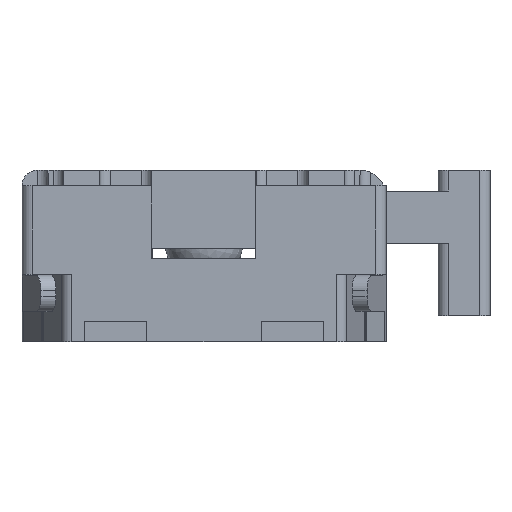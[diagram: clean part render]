
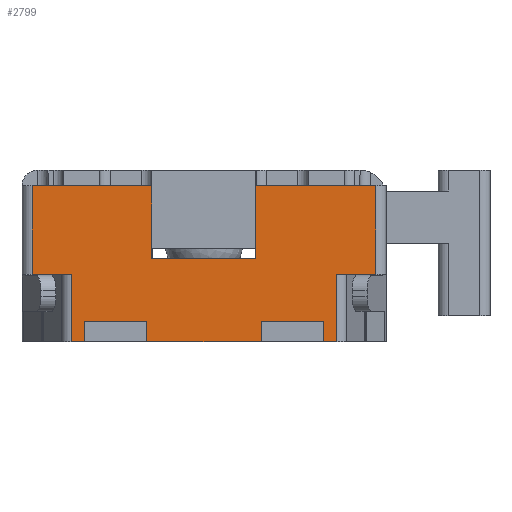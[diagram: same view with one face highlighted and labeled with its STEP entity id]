
A CAD part, left-side view. The second image highlights one B-rep face of the part: STEP entity #2799.
In plain terms, the highlighted planar face has unit normal (-1, 0, 0).
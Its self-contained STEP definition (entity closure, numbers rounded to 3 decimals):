
#366=CARTESIAN_POINT('',(-2.35,-1.276,0.0));
#367=VERTEX_POINT('',#366);
#376=CARTESIAN_POINT('',(-2.35,-1.276,0.65));
#377=VERTEX_POINT('',#376);
#385=CARTESIAN_POINT('',(-2.35,-1.276,0.65));
#386=DIRECTION('',(0.0,0.0,-1.0));
#387=VECTOR('',#386,0.65);
#388=LINE('',#385,#387);
#389=EDGE_CURVE('',#377,#367,#388,.T.);
#402=CARTESIAN_POINT('',(-2.35,-1.15,0.0));
#403=VERTEX_POINT('',#402);
#404=CARTESIAN_POINT('',(-2.35,-1.276,0.0));
#405=DIRECTION('',(0.0,1.0,0.0));
#406=VECTOR('',#405,0.126);
#407=LINE('',#404,#406);
#408=EDGE_CURVE('',#367,#403,#407,.T.);
#426=CARTESIAN_POINT('',(-2.35,-0.55,0.0));
#427=VERTEX_POINT('',#426);
#434=CARTESIAN_POINT('',(-2.35,0.55,0.0));
#435=VERTEX_POINT('',#434);
#436=CARTESIAN_POINT('',(-2.35,-0.55,0.0));
#437=DIRECTION('',(0.0,1.0,0.0));
#438=VECTOR('',#437,1.1);
#439=LINE('',#436,#438);
#440=EDGE_CURVE('',#427,#435,#439,.T.);
#458=CARTESIAN_POINT('',(-2.35,1.15,0.0));
#459=VERTEX_POINT('',#458);
#466=CARTESIAN_POINT('',(-2.35,1.276,0.0));
#467=VERTEX_POINT('',#466);
#468=CARTESIAN_POINT('',(-2.35,1.15,0.0));
#469=DIRECTION('',(0.0,1.0,0.0));
#470=VECTOR('',#469,0.126);
#471=LINE('',#468,#470);
#472=EDGE_CURVE('',#459,#467,#471,.T.);
#865=CARTESIAN_POINT('',(-2.35,-1.65,1.5));
#866=VERTEX_POINT('',#865);
#874=CARTESIAN_POINT('',(-2.35,-1.65,0.65));
#875=VERTEX_POINT('',#874);
#876=CARTESIAN_POINT('',(-2.35,-1.65,1.5));
#877=DIRECTION('',(0.0,0.0,-1.0));
#878=VECTOR('',#877,0.85);
#879=LINE('',#876,#878);
#880=EDGE_CURVE('',#866,#875,#879,.T.);
#947=CARTESIAN_POINT('',(-2.35,-0.5,1.5));
#948=VERTEX_POINT('',#947);
#955=CARTESIAN_POINT('',(-2.35,-1.65,1.5));
#956=DIRECTION('',(0.0,1.0,0.0));
#957=VECTOR('',#956,1.15);
#958=LINE('',#955,#957);
#959=EDGE_CURVE('',#866,#948,#958,.T.);
#1481=CARTESIAN_POINT('',(-2.35,1.276,0.65));
#1482=VERTEX_POINT('',#1481);
#1483=CARTESIAN_POINT('',(-2.35,1.276,0.0));
#1484=DIRECTION('',(0.0,0.0,1.0));
#1485=VECTOR('',#1484,0.65);
#1486=LINE('',#1483,#1485);
#1487=EDGE_CURVE('',#467,#1482,#1486,.T.);
#1536=CARTESIAN_POINT('',(-2.35,1.65,1.5));
#1537=VERTEX_POINT('',#1536);
#1555=CARTESIAN_POINT('',(-2.35,1.65,0.65));
#1556=VERTEX_POINT('',#1555);
#1564=CARTESIAN_POINT('',(-2.35,1.65,0.65));
#1565=DIRECTION('',(0.0,0.0,1.0));
#1566=VECTOR('',#1565,0.85);
#1567=LINE('',#1564,#1566);
#1568=EDGE_CURVE('',#1556,#1537,#1567,.T.);
#1610=CARTESIAN_POINT('',(-2.35,0.5,1.5));
#1611=VERTEX_POINT('',#1610);
#1612=CARTESIAN_POINT('',(-2.35,0.5,1.5));
#1613=DIRECTION('',(0.0,1.0,0.0));
#1614=VECTOR('',#1613,1.15);
#1615=LINE('',#1612,#1614);
#1616=EDGE_CURVE('',#1611,#1537,#1615,.T.);
#2321=CARTESIAN_POINT('',(-2.35,-1.65,0.65));
#2322=DIRECTION('',(0.0,1.0,0.0));
#2323=VECTOR('',#2322,0.374);
#2324=LINE('',#2321,#2323);
#2325=EDGE_CURVE('',#875,#377,#2324,.T.);
#2512=CARTESIAN_POINT('',(-2.35,-1.15,0.2));
#2513=VERTEX_POINT('',#2512);
#2514=CARTESIAN_POINT('',(-2.35,-1.15,0.2));
#2515=DIRECTION('',(0.0,0.0,-1.0));
#2516=VECTOR('',#2515,0.2);
#2517=LINE('',#2514,#2516);
#2518=EDGE_CURVE('',#2513,#403,#2517,.T.);
#2543=CARTESIAN_POINT('',(-2.35,-0.55,0.2));
#2544=VERTEX_POINT('',#2543);
#2545=CARTESIAN_POINT('',(-2.35,-0.55,0.2));
#2546=DIRECTION('',(0.0,-1.0,0.0));
#2547=VECTOR('',#2546,0.6);
#2548=LINE('',#2545,#2547);
#2549=EDGE_CURVE('',#2544,#2513,#2548,.T.);
#2592=CARTESIAN_POINT('',(-2.35,-0.55,0.0));
#2593=DIRECTION('',(0.0,0.0,1.0));
#2594=VECTOR('',#2593,0.2);
#2595=LINE('',#2592,#2594);
#2596=EDGE_CURVE('',#427,#2544,#2595,.T.);
#2639=CARTESIAN_POINT('',(-2.35,1.15,0.2));
#2640=VERTEX_POINT('',#2639);
#2641=CARTESIAN_POINT('',(-2.35,1.15,0.0));
#2642=DIRECTION('',(0.0,0.0,1.0));
#2643=VECTOR('',#2642,0.2);
#2644=LINE('',#2641,#2643);
#2645=EDGE_CURVE('',#459,#2640,#2644,.T.);
#2663=CARTESIAN_POINT('',(-2.35,0.55,0.2));
#2664=VERTEX_POINT('',#2663);
#2673=CARTESIAN_POINT('',(-2.35,0.55,0.2));
#2674=DIRECTION('',(0.0,0.0,-1.0));
#2675=VECTOR('',#2674,0.2);
#2676=LINE('',#2673,#2675);
#2677=EDGE_CURVE('',#2664,#435,#2676,.T.);
#2687=CARTESIAN_POINT('',(-2.35,1.15,0.2));
#2688=DIRECTION('',(0.0,-1.0,0.0));
#2689=VECTOR('',#2688,0.6);
#2690=LINE('',#2687,#2689);
#2691=EDGE_CURVE('',#2640,#2664,#2690,.T.);
#2711=CARTESIAN_POINT('',(-2.35,1.276,0.65));
#2712=DIRECTION('',(0.0,1.0,0.0));
#2713=VECTOR('',#2712,0.374);
#2714=LINE('',#2711,#2713);
#2715=EDGE_CURVE('',#1482,#1556,#2714,.T.);
#2753=CARTESIAN_POINT('',(-2.35,-1.75,0.0));
#2754=DIRECTION('',(-1.0,0.0,0.0));
#2755=DIRECTION('',(0.0,0.0,1.0));
#2756=AXIS2_PLACEMENT_3D('',#2753,#2754,#2755);
#2757=PLANE('',#2756);
#2758=ORIENTED_EDGE('',*,*,#2325,.F.);
#2759=ORIENTED_EDGE('',*,*,#880,.F.);
#2760=ORIENTED_EDGE('',*,*,#959,.T.);
#2761=CARTESIAN_POINT('',(-2.35,-0.5,0.8));
#2762=VERTEX_POINT('',#2761);
#2763=CARTESIAN_POINT('',(-2.35,-0.5,1.5));
#2764=DIRECTION('',(0.0,0.0,-1.0));
#2765=VECTOR('',#2764,0.7);
#2766=LINE('',#2763,#2765);
#2767=EDGE_CURVE('',#948,#2762,#2766,.T.);
#2768=ORIENTED_EDGE('',*,*,#2767,.T.);
#2769=CARTESIAN_POINT('',(-2.35,0.5,0.8));
#2770=VERTEX_POINT('',#2769);
#2771=CARTESIAN_POINT('',(-2.35,-0.5,0.8));
#2772=DIRECTION('',(0.0,1.0,0.0));
#2773=VECTOR('',#2772,1.0);
#2774=LINE('',#2771,#2773);
#2775=EDGE_CURVE('',#2762,#2770,#2774,.T.);
#2776=ORIENTED_EDGE('',*,*,#2775,.T.);
#2777=CARTESIAN_POINT('',(-2.35,0.5,0.8));
#2778=DIRECTION('',(0.0,0.0,1.0));
#2779=VECTOR('',#2778,0.7);
#2780=LINE('',#2777,#2779);
#2781=EDGE_CURVE('',#2770,#1611,#2780,.T.);
#2782=ORIENTED_EDGE('',*,*,#2781,.T.);
#2783=ORIENTED_EDGE('',*,*,#1616,.T.);
#2784=ORIENTED_EDGE('',*,*,#1568,.F.);
#2785=ORIENTED_EDGE('',*,*,#2715,.F.);
#2786=ORIENTED_EDGE('',*,*,#1487,.F.);
#2787=ORIENTED_EDGE('',*,*,#472,.F.);
#2788=ORIENTED_EDGE('',*,*,#2645,.T.);
#2789=ORIENTED_EDGE('',*,*,#2691,.T.);
#2790=ORIENTED_EDGE('',*,*,#2677,.T.);
#2791=ORIENTED_EDGE('',*,*,#440,.F.);
#2792=ORIENTED_EDGE('',*,*,#2596,.T.);
#2793=ORIENTED_EDGE('',*,*,#2549,.T.);
#2794=ORIENTED_EDGE('',*,*,#2518,.T.);
#2795=ORIENTED_EDGE('',*,*,#408,.F.);
#2796=ORIENTED_EDGE('',*,*,#389,.F.);
#2797=EDGE_LOOP('',(#2758,#2759,#2760,#2768,#2776,#2782,#2783,#2784,#2785,#2786,#2787,#2788,#2789,#2790,#2791,#2792,#2793,#2794,#2795,#2796));
#2798=FACE_OUTER_BOUND('',#2797,.T.);
#2799=ADVANCED_FACE('',(#2798),#2757,.T.);
